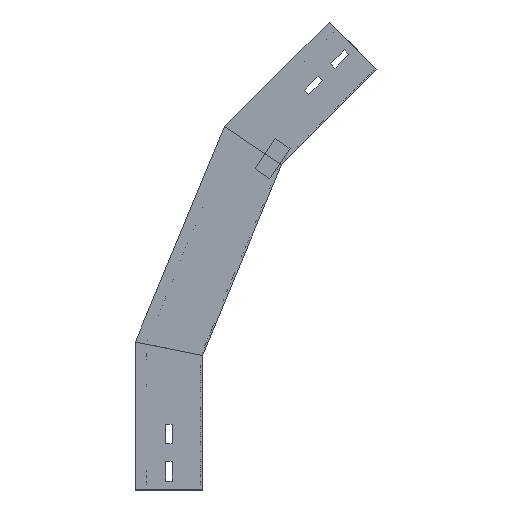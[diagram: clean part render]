
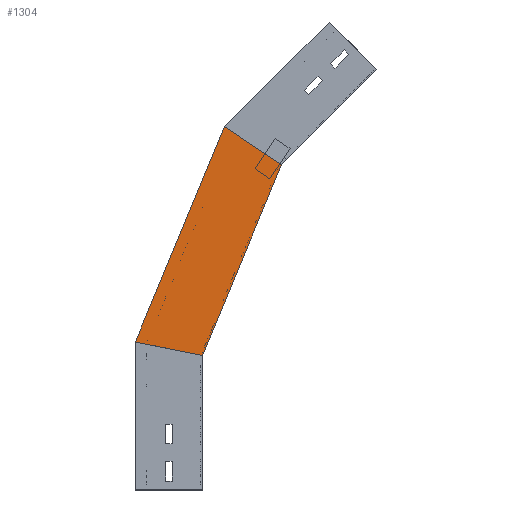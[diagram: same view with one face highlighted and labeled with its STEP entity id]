
A CAD part, left-side view. The second image highlights one B-rep face of the part: STEP entity #1304.
In plain terms, the highlighted planar face has unit normal (-1, 0, 0) as drawn and (1, 0, 0) by its records, which use the part's own axes.
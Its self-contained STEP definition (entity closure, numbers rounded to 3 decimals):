
#5 = EDGE_CURVE ( 'NONE', #716, #827, #789, .T. ) ;
#34 = LINE ( 'NONE', #1433, #849 ) ;
#67 = LINE ( 'NONE', #1206, #791 ) ;
#159 = CARTESIAN_POINT ( 'NONE',  ( 0., -24.435, 404.976 ) ) ;
#217 = EDGE_LOOP ( 'NONE', ( #527, #505, #831, #667 ) ) ;
#233 = DIRECTION ( 'NONE',  ( 0., -0.831, -0.556 ) ) ;
#298 = LINE ( 'NONE', #312, #573 ) ;
#312 = CARTESIAN_POINT ( 'NONE',  ( 0., 6.318, 134.746 ) ) ;
#427 = VERTEX_POINT ( 'NONE', #1126 ) ;
#505 = ORIENTED_EDGE ( 'NONE', *, *, #5, .T. ) ;
#527 = ORIENTED_EDGE ( 'NONE', *, *, #1499, .T. ) ;
#573 = VECTOR ( 'NONE', #1121, 1000. ) ;
#667 = ORIENTED_EDGE ( 'NONE', *, *, #1253, .F. ) ;
#668 = CARTESIAN_POINT ( 'NONE',  ( 0., -88.017, 362.492 ) ) ;
#716 = VERTEX_POINT ( 'NONE', #159 ) ;
#743 = FACE_OUTER_BOUND ( 'NONE', #217, .T. ) ;
#789 = LINE ( 'NONE', #1268, #818 ) ;
#791 = VECTOR ( 'NONE', #972, 1000. ) ;
#818 = VECTOR ( 'NONE', #233, 1000. ) ;
#827 = VERTEX_POINT ( 'NONE', #668 ) ;
#831 = ORIENTED_EDGE ( 'NONE', *, *, #1329, .F. ) ;
#849 = VECTOR ( 'NONE', #1056, 1000. ) ;
#912 = CARTESIAN_POINT ( 'NONE',  ( 0., 75., 164.918 ) ) ;
#962 = CARTESIAN_POINT ( 'NONE',  ( 0., 6.318, 134.746 ) ) ;
#972 = DIRECTION ( 'NONE',  ( 0., -0.981, -0.195 ) ) ;
#1056 = DIRECTION ( 'NONE',  ( 0., -0.383, 0.924 ) ) ;
#1121 = DIRECTION ( 'NONE',  ( 0., -0.383, 0.924 ) ) ;
#1126 = CARTESIAN_POINT ( 'NONE',  ( 0., 0., 150. ) ) ;
#1206 = CARTESIAN_POINT ( 'NONE',  ( 0., -28.701, 144.291 ) ) ;
#1233 = PLANE ( 'NONE',  #1381 ) ;
#1253 = EDGE_CURVE ( 'NONE', #1459, #427, #67, .T. ) ;
#1268 = CARTESIAN_POINT ( 'NONE',  ( 0., -128.004, 335.774 ) ) ;
#1304 = ADVANCED_FACE ( 'NONE', ( #743 ), #1233, .T. ) ;
#1329 = EDGE_CURVE ( 'NONE', #427, #827, #298, .T. ) ;
#1337 = DIRECTION ( 'NONE',  ( 0., 0., -1. ) ) ;
#1381 = AXIS2_PLACEMENT_3D ( 'NONE', #962, #1449, #1337 ) ;
#1433 = CARTESIAN_POINT ( 'NONE',  ( 0., 75.609, 163.448 ) ) ;
#1449 = DIRECTION ( 'NONE',  ( 1., 0., 0. ) ) ;
#1459 = VERTEX_POINT ( 'NONE', #912 ) ;
#1499 = EDGE_CURVE ( 'NONE', #1459, #716, #34, .T. ) ;
